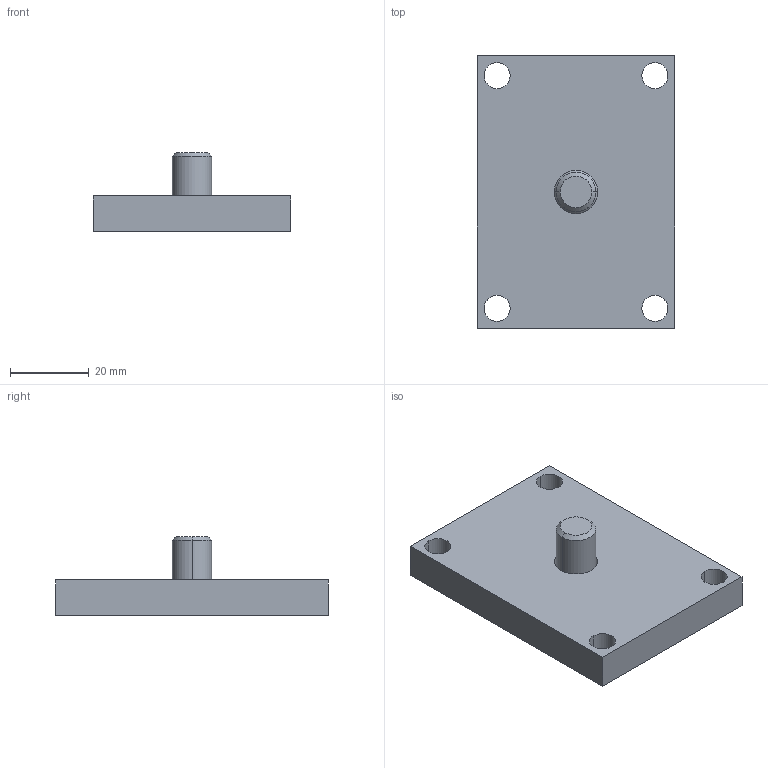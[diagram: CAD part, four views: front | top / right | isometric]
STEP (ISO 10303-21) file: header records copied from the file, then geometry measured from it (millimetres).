
FILE_DESCRIPTION(/* description */ (''),/* implementation_level */ '2;1');
FILE_NAME(/* name */ '3d_bm-50_03391_r00.stp',/* time_stamp */ '2011-01-10T14:17:23+09:00',/* author */ ('MISUMI'),/* organization */ (''),/* preprocessor_version */ 'ST-DEVELOPER v11',/* originating_system */ 'UGS - NX 5.0',/* authorisation */ '');
FILE_SCHEMA (('CONFIG_CONTROL_DESIGN'));
Length unit declared in the file: millimetre
Products named in the file (1): 3d_bm-50_03391_r00
Bounding box: 50 x 69 x 20 mm (x, y, z)
Volume: 30504 mm3; surface area: 10810.8 mm2
Topology: 2 solids, 2 shells, 33 faces, 80 edges, 52 vertices
Faces by surface type: plane 15, cylinder 12, cone 6
Entity records: 1078 total; most frequent: DIRECTION 180, CARTESIAN_POINT 166, ORIENTED_EDGE 160, EDGE_CURVE 80, AXIS2_PLACEMENT_3D 66, VERTEX_POINT 52, LINE 48, VECTOR 48
